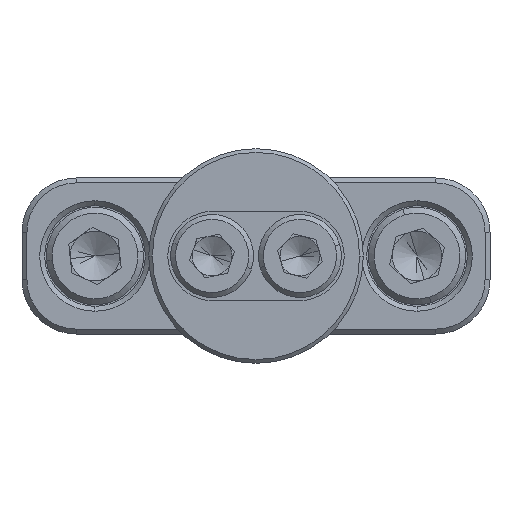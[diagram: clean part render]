
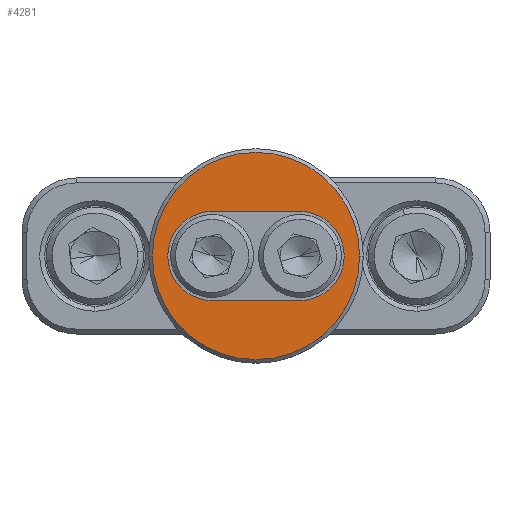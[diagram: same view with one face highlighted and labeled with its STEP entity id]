
A CAD part, front view. The second image highlights one B-rep face of the part: STEP entity #4281.
In plain terms, the highlighted planar face has unit normal (0, -1, 0).
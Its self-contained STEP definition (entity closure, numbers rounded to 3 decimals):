
#23 = EDGE_CURVE ( 'NONE', #1372, #2820, #2786, .T. ) ;
#30 = LINE ( 'NONE', #550, #477 ) ;
#65 = CARTESIAN_POINT ( 'NONE',  ( 0., 0., -4.47 ) ) ;
#76 = VERTEX_POINT ( 'NONE', #4586 ) ;
#113 = LINE ( 'NONE', #2795, #4193 ) ;
#155 = DIRECTION ( 'NONE',  ( 0., 0., 1. ) ) ;
#477 = VECTOR ( 'NONE', #5781, 1000. ) ;
#550 = CARTESIAN_POINT ( 'NONE',  ( -4.572, 0., -4.47 ) ) ;
#774 = EDGE_CURVE ( 'NONE', #4946, #4465, #4038, .T. ) ;
#800 = EDGE_LOOP ( 'NONE', ( #3907, #3871 ) ) ;
#901 = AXIS2_PLACEMENT_3D ( 'NONE', #4197, #5566, #2320 ) ;
#929 = EDGE_LOOP ( 'NONE', ( #4483, #2056, #3584, #3867, #1142 ) ) ;
#1142 = ORIENTED_EDGE ( 'NONE', *, *, #774, .F. ) ;
#1317 = CIRCLE ( 'NONE', #3149, 4.572 ) ;
#1340 = EDGE_CURVE ( 'NONE', #4465, #76, #30, .T. ) ;
#1352 = DIRECTION ( 'NONE',  ( 0., 0., 1. ) ) ;
#1372 = VERTEX_POINT ( 'NONE', #1544 ) ;
#1544 = CARTESIAN_POINT ( 'NONE',  ( 0., 0., -10.617 ) ) ;
#1570 = CIRCLE ( 'NONE', #3233, 4.572 ) ;
#1712 = VERTEX_POINT ( 'NONE', #3690 ) ;
#1771 = PLANE ( 'NONE',  #901 ) ;
#1778 = CARTESIAN_POINT ( 'NONE',  ( 0., 0., 0. ) ) ;
#1977 = CARTESIAN_POINT ( 'NONE',  ( 4.572, 0., 4.47 ) ) ;
#2056 = ORIENTED_EDGE ( 'NONE', *, *, #5013, .F. ) ;
#2320 = DIRECTION ( 'NONE',  ( 0., 0., 1. ) ) ;
#2380 = CARTESIAN_POINT ( 'NONE',  ( -4.572, 0., 4.47 ) ) ;
#2407 = EDGE_CURVE ( 'NONE', #1712, #4946, #113, .T. ) ;
#2542 = CARTESIAN_POINT ( 'NONE',  ( 0., 0., 4.47 ) ) ;
#2575 = CARTESIAN_POINT ( 'NONE',  ( 0., 0., -4.47 ) ) ;
#2645 = EDGE_CURVE ( 'NONE', #2820, #1372, #4640, .T. ) ;
#2786 = CIRCLE ( 'NONE', #3090, 10.617 ) ;
#2795 = CARTESIAN_POINT ( 'NONE',  ( 4.572, 0., -4.47 ) ) ;
#2820 = VERTEX_POINT ( 'NONE', #5915 ) ;
#3007 = DIRECTION ( 'NONE',  ( 0., 0., 1. ) ) ;
#3011 = DIRECTION ( 'NONE',  ( 0., -1., 0. ) ) ;
#3021 = DIRECTION ( 'NONE',  ( 0., -1., 0. ) ) ;
#3090 = AXIS2_PLACEMENT_3D ( 'NONE', #1778, #3205, #1352 ) ;
#3149 = AXIS2_PLACEMENT_3D ( 'NONE', #2575, #4864, #5382 ) ;
#3183 = AXIS2_PLACEMENT_3D ( 'NONE', #3410, #4865, #3007 ) ;
#3205 = DIRECTION ( 'NONE',  ( 0., -1., 0. ) ) ;
#3233 = AXIS2_PLACEMENT_3D ( 'NONE', #65, #3011, #155 ) ;
#3410 = CARTESIAN_POINT ( 'NONE',  ( 0., 0., 0. ) ) ;
#3486 = CARTESIAN_POINT ( 'NONE',  ( 0., 0., -9.042 ) ) ;
#3584 = ORIENTED_EDGE ( 'NONE', *, *, #3615, .F. ) ;
#3615 = EDGE_CURVE ( 'NONE', #76, #4566, #1317, .T. ) ;
#3690 = CARTESIAN_POINT ( 'NONE',  ( 4.572, 0., -4.47 ) ) ;
#3867 = ORIENTED_EDGE ( 'NONE', *, *, #1340, .F. ) ;
#3871 = ORIENTED_EDGE ( 'NONE', *, *, #23, .T. ) ;
#3907 = ORIENTED_EDGE ( 'NONE', *, *, #2645, .T. ) ;
#4038 = CIRCLE ( 'NONE', #5738, 4.572 ) ;
#4193 = VECTOR ( 'NONE', #5645, 1000. ) ;
#4197 = CARTESIAN_POINT ( 'NONE',  ( 0., 0., 0. ) ) ;
#4275 = FACE_BOUND ( 'NONE', #929, .T. ) ;
#4281 = ADVANCED_FACE ( 'NONE', ( #4275, #4431 ), #1771, .F. ) ;
#4431 = FACE_OUTER_BOUND ( 'NONE', #800, .T. ) ;
#4465 = VERTEX_POINT ( 'NONE', #2380 ) ;
#4483 = ORIENTED_EDGE ( 'NONE', *, *, #2407, .F. ) ;
#4566 = VERTEX_POINT ( 'NONE', #3486 ) ;
#4586 = CARTESIAN_POINT ( 'NONE',  ( -4.572, 0., -4.47 ) ) ;
#4640 = CIRCLE ( 'NONE', #3183, 10.617 ) ;
#4864 = DIRECTION ( 'NONE',  ( 0., -1., 0. ) ) ;
#4865 = DIRECTION ( 'NONE',  ( 0., -1., 0. ) ) ;
#4946 = VERTEX_POINT ( 'NONE', #1977 ) ;
#4982 = DIRECTION ( 'NONE',  ( 0., 0., -1. ) ) ;
#5013 = EDGE_CURVE ( 'NONE', #4566, #1712, #1570, .T. ) ;
#5382 = DIRECTION ( 'NONE',  ( 0., 0., 1. ) ) ;
#5566 = DIRECTION ( 'NONE',  ( 0., 1., 0. ) ) ;
#5645 = DIRECTION ( 'NONE',  ( 0., 0., 1. ) ) ;
#5738 = AXIS2_PLACEMENT_3D ( 'NONE', #2542, #3021, #4982 ) ;
#5781 = DIRECTION ( 'NONE',  ( 0., 0., -1. ) ) ;
#5915 = CARTESIAN_POINT ( 'NONE',  ( 0., 0., 10.617 ) ) ;
